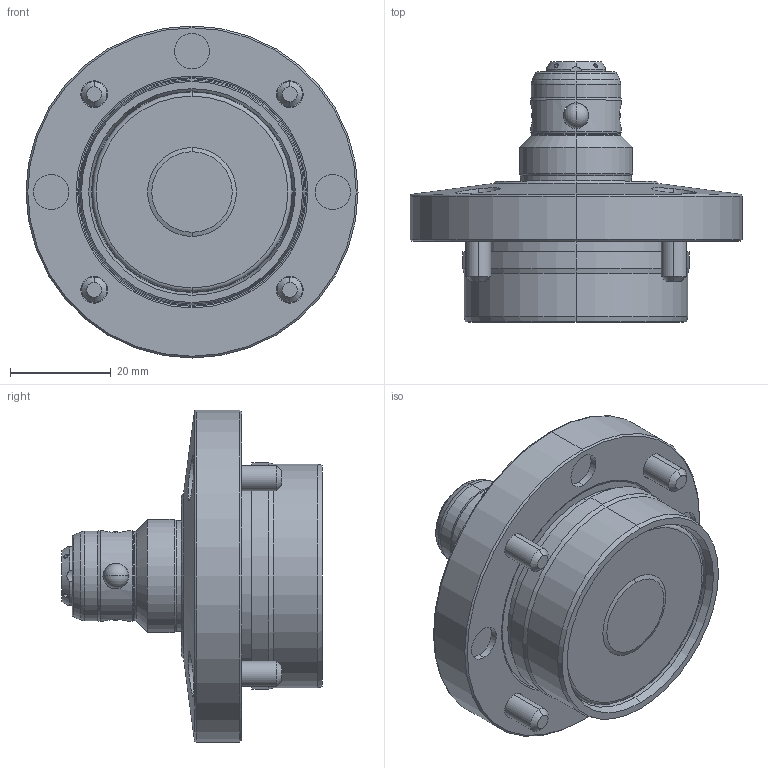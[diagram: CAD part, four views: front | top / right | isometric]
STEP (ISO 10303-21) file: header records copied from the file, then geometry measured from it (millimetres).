
FILE_DESCRIPTION (( 'STEP AP203' ), '1' );
FILE_NAME ('SWT0020-MG.step', '2010-08-04T09:04:17', ( ' ' ), ( ' ' ), 'SwSTEP 2.0', 'SolidWorks 2010', '' );
FILE_SCHEMA (( 'CONFIG_CONTROL_DESIGN' ));
Length unit declared in the file: millimetre
Products named in the file (5): 4SW100108; SWT0020-MG; 4SW100106; 鋼球_5; 6妏寠晅无倌_M5_12
Assembly tree (10 placements, depth 2):
  SWT0020-MG
    鋼球_5  x4
    6妏寠晅无倌_M5_12  x4
    4SW100106
    4SW100108
Bounding box: 66 x 51.7 x 66 mm (x, y, z)
Volume: 64323.4 mm3; surface area: 21729.2 mm2
Topology: 11 solids, 11 shells, 285 faces, 582 edges, 327 vertices
Faces by surface type: cylinder 91, plane 86, cone 82, torus 18, sphere 8
Entity records: 6300 total; most frequent: CARTESIAN_POINT 1533, DIRECTION 937, ORIENTED_EDGE 784, AXIS2_PLACEMENT_3D 402, EDGE_CURVE 392, VERTEX_POINT 234, EDGE_LOOP 226, CIRCLE 203
